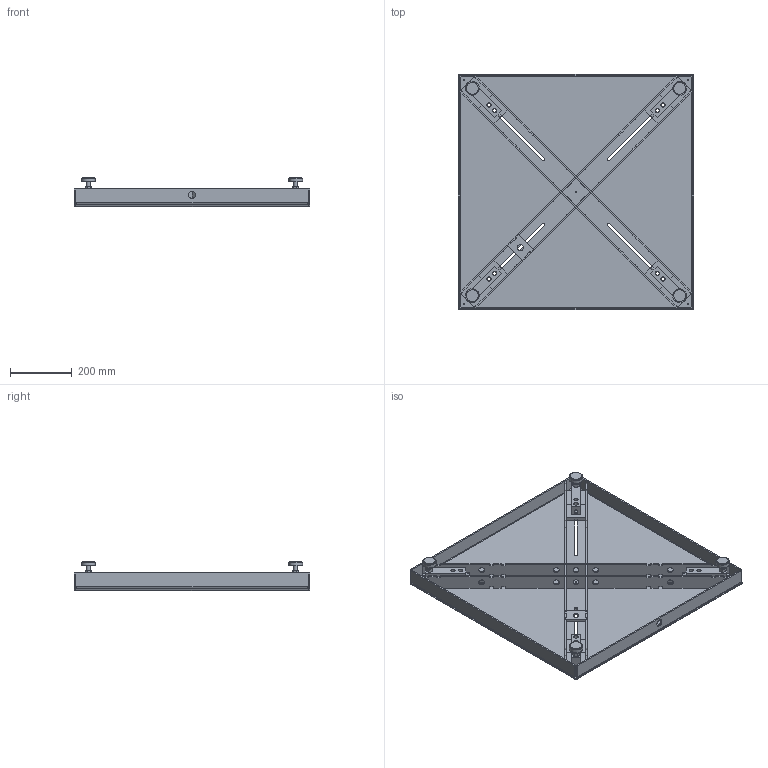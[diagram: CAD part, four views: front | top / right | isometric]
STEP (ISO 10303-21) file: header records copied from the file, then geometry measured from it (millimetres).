
FILE_DESCRIPTION (( 'STEP AP214' ), '1' );
FILE_NAME ('4040-30.STEP', '2022-01-07T17:52:27', ( '' ), ( '' ), 'SwSTEP 2.0', 'SolidWorks 2019', '' );
FILE_SCHEMA (( 'AUTOMOTIVE_DESIGN' ));
Length unit declared in the file: inch
Products named in the file (1): 4040-30
Bounding box: 762 x 762 x 94.82 mm (x, y, z)
Surface area: 3163468.6 mm2 (no closed solid volume)
Topology: 0 solids, 31 shells, 466 faces, 1877 edges, 1398 vertices
Faces by surface type: plane 291, cylinder 146, cone 17, bspline 8, sphere 4
Full cylindrical faces by diameter (mm): 5.105 x1, 7.937 x1, 7.938 x8, 10.716 x8, 12.667 x4, 13.335 x8, 19.05 x20, 19.304 x1, 22.86 x1, 37.973 x4, 44.45 x4
Entity records: 26049 total; most frequent: CARTESIAN_POINT 4543, DIRECTION 3166, ORIENTED_EDGE 2806, EDGE_CURVE 1803, VERTEX_POINT 1393, LINE 1150, VECTOR 1150, AXIS2_PLACEMENT_3D 1008
